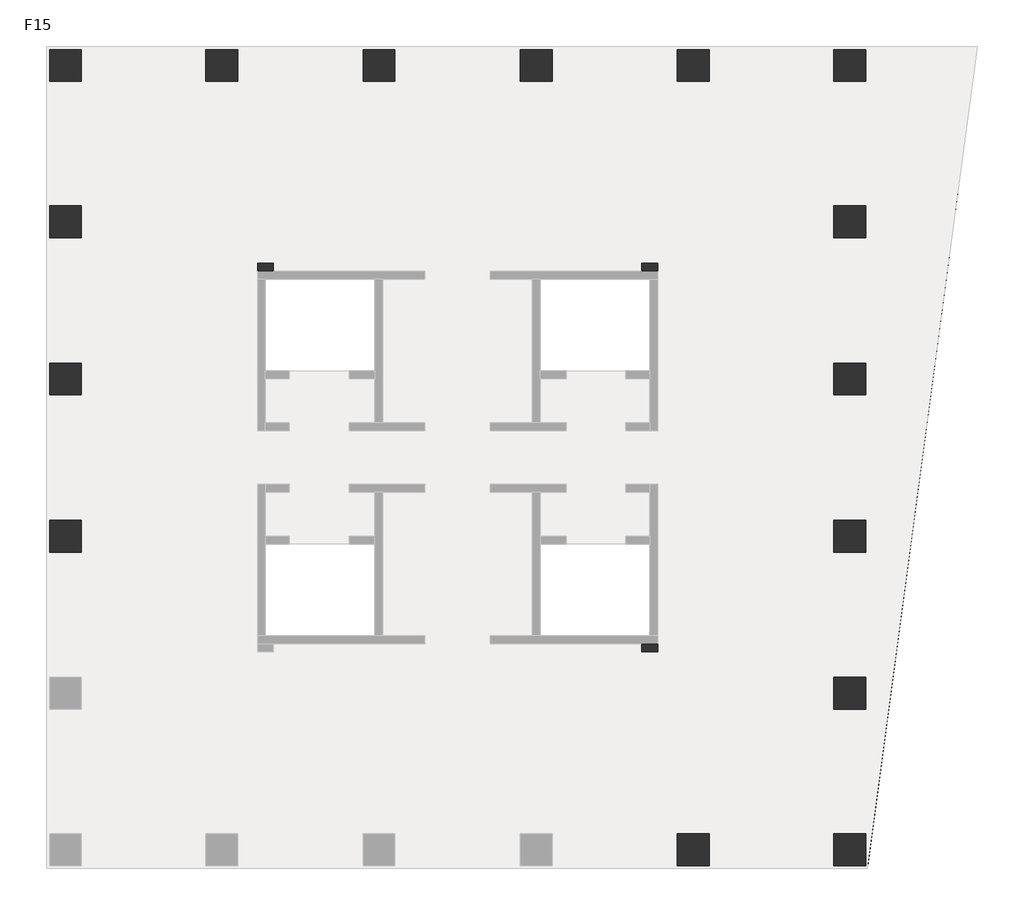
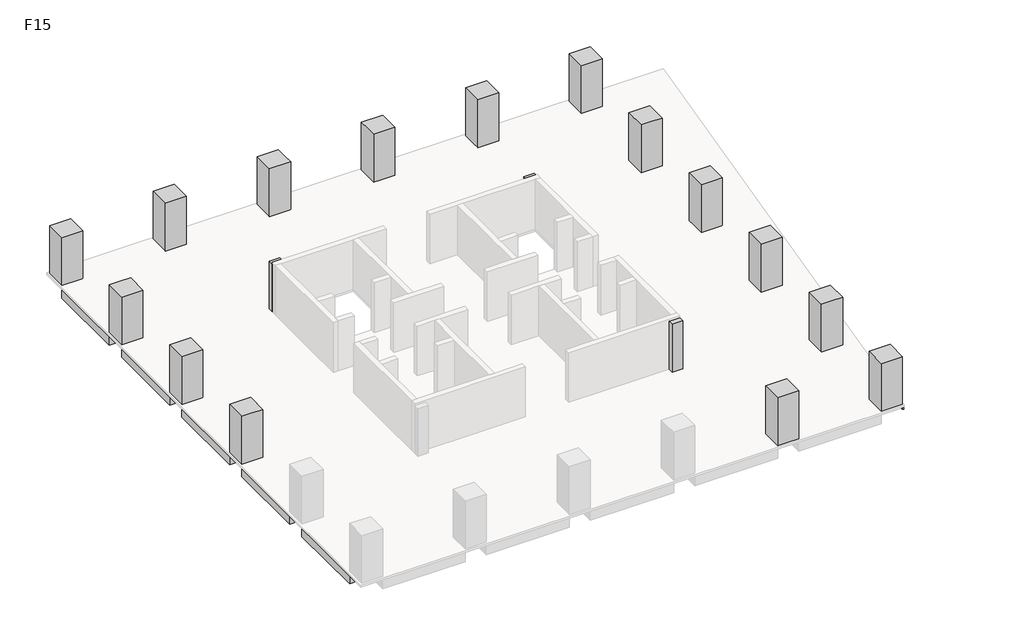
# One storey, part 2 of 2: 21 beams, 18 columns.
"""IFC4 building model written with IfcOpenShell, lengths in millimetres."""

from ifc_helpers import new_model, si_unit, frame, origin, place, context, project, spatial, polyline, outline, extrude, faceted_brep, element, save

model = new_model("IFC4")

# Units and contexts
model_context = context("Model", 3, world=origin())
ifc_project = project(units=[si_unit("LENGTHUNIT", "METRE", prefix="MILLI")], contexts=[model_context])

# Site, building, storey
site = spatial("IfcSite", under=ifc_project)
building = spatial("IfcBuilding", under=site)
storey = spatial("IfcBuildingStorey", under=building, Name="F15", Elevation=60000.0)

# Beams
placement = place(None, origin())
element("IfcBeam", 1, ObjectType="混凝土 - 矩形梁 : KL(5)-800x1000", at=placement, inside=storey, context=model_context, shape_type="SweptSolid", body=[
    extrude(outline(polyline([(25327.3257831, 27051.0498658), (25327.3257831, 26251.0498658), (19077.3257831, 26251.0498658), (19077.3257831, 27051.0498658), (25327.3257831, 27051.0498658)])), frame((0.0, 0.0, 59000.0), z_axis=(0.0, 0.0, 1.0), x_axis=(1.0, 0.0, 0.0)), (0.0, 0.0, 1.0), 840.0),
    extrude(outline(polyline([(-12472.6742169, 26251.0498658), (-12472.6742169, 27051.0498658), (-6222.6742169, 27051.0498658), (-6222.6742169, 26251.0498658), (-12472.6742169, 26251.0498658)])), frame((0.0, 0.0, 59000.0), z_axis=(0.0, 0.0, 1.0), x_axis=(1.0, 0.0, 0.0)), (0.0, 0.0, 1.0), 840.0),
    extrude(outline(polyline([(-4622.6742169, 26251.0498658), (-4622.6742169, 27051.0498658), (1677.3257831, 27051.0498658), (1677.3257831, 26251.0498658), (-4622.6742169, 26251.0498658)])), frame((0.0, 0.0, 59000.0), z_axis=(0.0, 0.0, 1.0), x_axis=(1.0, 0.0, 0.0)), (0.0, 0.0, 1.0), 840.0),
    extrude(outline(polyline([(3277.3257831, 26251.0498658), (3277.3257831, 27051.0498658), (9577.3257831, 27051.0498658), (9577.3257831, 26251.0498658), (3277.3257831, 26251.0498658)])), frame((0.0, 0.0, 59000.0), z_axis=(0.0, 0.0, 1.0), x_axis=(1.0, 0.0, 0.0)), (0.0, 0.0, 1.0), 840.0),
    extrude(outline(polyline([(11177.3257831, 26251.0498658), (11177.3257831, 27051.0498658), (17477.3257831, 27051.0498658), (17477.3257831, 26251.0498658), (11177.3257831, 26251.0498658)])), frame((0.0, 0.0, 59000.0), z_axis=(0.0, 0.0, 1.0), x_axis=(1.0, 0.0, 0.0)), (0.0, 0.0, 1.0), 840.0),
])
element("IfcBeam", 2, ObjectType="混凝土 - 矩形梁 : KL(5)-800x1000", at=placement, inside=storey, context=model_context, shape_type="Brep", body=[
    faceted_brep([(26927.3257831, 26251.0498658, 59000.0), (32422.0087099, 26251.0498658, 59000.0), (32422.0087099, 26251.0498658, 59840.0), (32018.4257091, 26251.0498658, 59840.0), (26927.3257831, 26251.0498658, 59840.0), (32422.0087099, 27051.0498658, 59000.0), (26927.3257831, 27051.0498658, 59000.0), (26927.3257831, 27051.0498658, 59840.0), (32422.0087099, 27051.0498658, 59840.0)], [[[0, 1, 2, 3, 4]], [[5, 1, 0, 6]], [[5, 6, 7, 8]], [[1, 5, 8, 2]], [[6, 0, 4, 7]], [[4, 3, 2, 8, 7]]]),
])
element("IfcBeam", 3, ObjectType="混凝土 - 矩形梁 : KL(5)-800x1000", at=placement, inside=storey, context=model_context, shape_type="Brep", body=[
    faceted_brep([(26127.3257831, -6098.9501342, 59000.0), (26127.3257831, -12348.9501342, 59000.0), (26127.3257831, -12348.9501342, 59840.0), (26127.3257831, -6098.9501342, 59840.0), (26927.3257831, -12348.9501342, 59000.0), (26927.3257831, -6098.9501342, 59000.0), (26927.3257831, -6098.9501342, 59840.0), (26927.3257831, -11700.7859463, 59840.0), (26927.3257831, -12348.9501342, 59840.0)], [[[0, 1, 2, 3]], [[4, 1, 0, 5]], [[4, 5, 6, 7, 8]], [[1, 4, 8, 2]], [[5, 0, 3, 6]], [[3, 2, 8, 7, 6]]]),
    faceted_brep([(26927.3257831, 25451.0498658, 59000.0), (26127.3257831, 25451.0498658, 59000.0), (26127.3257831, 25451.0498658, 59840.0), (26927.3257831, 25451.0498658, 59840.0), (26127.3257831, 19201.0498658, 59000.0), (26927.3257831, 19201.0498658, 59000.0), (26927.3257831, 19201.0498658, 59840.0), (26127.3257831, 19201.0498658, 59840.0)], [[[0, 1, 2, 3]], [[4, 5, 6, 7]], [[1, 4, 7, 2]], [[1, 0, 5, 4]], [[5, 0, 3, 6]], [[3, 2, 7, 6]]]),
    faceted_brep([(26927.3257831, 17601.0498658, 59000.0), (26127.3257831, 17601.0498658, 59000.0), (26127.3257831, 17601.0498658, 59840.0), (26927.3257831, 17601.0498658, 59840.0), (26127.3257831, 11301.0498658, 59000.0), (26927.3257831, 11301.0498658, 59000.0), (26927.3257831, 11301.0498658, 59840.0), (26127.3257831, 11301.0498658, 59840.0)], [[[0, 1, 2, 3]], [[4, 5, 6, 7]], [[1, 4, 7, 2]], [[1, 0, 5, 4]], [[5, 0, 3, 6]], [[3, 2, 7, 6]]]),
    faceted_brep([(26927.3257831, 9701.0498658, 59000.0), (26127.3257831, 9701.0498658, 59000.0), (26127.3257831, 9701.0498658, 59840.0), (26927.3257831, 9701.0498658, 59840.0), (26127.3257831, 3401.0498658, 59000.0), (26927.3257831, 3401.0498658, 59000.0), (26927.3257831, 3401.0498658, 59840.0), (26127.3257831, 3401.0498658, 59840.0)], [[[0, 1, 2, 3]], [[4, 5, 6, 7]], [[1, 4, 7, 2]], [[1, 0, 5, 4]], [[5, 0, 3, 6]], [[3, 2, 7, 6]]]),
    faceted_brep([(26927.3257831, 1801.0498658, 59000.0), (26127.3257831, 1801.0498658, 59000.0), (26127.3257831, 1801.0498658, 59840.0), (26927.3257831, 1801.0498658, 59840.0), (26127.3257831, -4498.9501342, 59000.0), (26927.3257831, -4498.9501342, 59000.0), (26927.3257831, -4498.9501342, 59840.0), (26127.3257831, -4498.9501342, 59840.0)], [[[0, 1, 2, 3]], [[4, 5, 6, 7]], [[1, 4, 7, 2]], [[1, 0, 5, 4]], [[5, 0, 3, 6]], [[3, 2, 7, 6]]]),
])
element("IfcBeam", 4, ObjectType="混凝土 - 矩形梁 : KL(5)-800x1000", at=placement, inside=storey, context=model_context, shape_type="SweptSolid", body=[
    extrude(outline(polyline([(-14072.6742169, 25451.0498658), (-13272.6742169, 25451.0498658), (-13272.6742169, 19201.0498658), (-14072.6742169, 19201.0498658), (-14072.6742169, 25451.0498658)])), frame((0.0, 0.0, 59000.0), z_axis=(0.0, 0.0, 1.0), x_axis=(1.0, 0.0, 0.0)), (0.0, 0.0, 1.0), 840.0),
    extrude(outline(polyline([(-13272.6742169, -12348.9501342), (-14072.6742169, -12348.9501342), (-14072.6742169, -6098.9501342), (-13272.6742169, -6098.9501342), (-13272.6742169, -12348.9501342)])), frame((0.0, 0.0, 59000.0), z_axis=(0.0, 0.0, 1.0), x_axis=(1.0, 0.0, 0.0)), (0.0, 0.0, 1.0), 840.0),
    extrude(outline(polyline([(-14072.6742169, 17601.0498658), (-13272.6742169, 17601.0498658), (-13272.6742169, 11301.0498658), (-14072.6742169, 11301.0498658), (-14072.6742169, 17601.0498658)])), frame((0.0, 0.0, 59000.0), z_axis=(0.0, 0.0, 1.0), x_axis=(1.0, 0.0, 0.0)), (0.0, 0.0, 1.0), 840.0),
    extrude(outline(polyline([(-14072.6742169, 9701.0498658), (-13272.6742169, 9701.0498658), (-13272.6742169, 3401.0498658), (-14072.6742169, 3401.0498658), (-14072.6742169, 9701.0498658)])), frame((0.0, 0.0, 59000.0), z_axis=(0.0, 0.0, 1.0), x_axis=(1.0, 0.0, 0.0)), (0.0, 0.0, 1.0), 840.0),
    extrude(outline(polyline([(-14072.6742169, 1801.0498658), (-13272.6742169, 1801.0498658), (-13272.6742169, -4498.9501342), (-14072.6742169, -4498.9501342), (-14072.6742169, 1801.0498658)])), frame((0.0, 0.0, 59000.0), z_axis=(0.0, 0.0, 1.0), x_axis=(1.0, 0.0, 0.0)), (0.0, 0.0, 1.0), 840.0),
])
element("IfcBeam", 5, ObjectType="混凝土 - 矩形梁 : L1-800x500", at=placement, inside=storey, context=model_context, shape_type="SweptSolid", body=[
    extrude(outline(polyline([(-12472.6742169, 2201.0498658), (-12472.6742169, 3001.0498658), (-3622.6742169, 3001.0498658), (-3622.6742169, 2201.0498658), (-12472.6742169, 2201.0498658)])), frame((0.0, 0.0, 59500.0), z_axis=(0.0, 0.0, 1.0), x_axis=(1.0, 0.0, 0.0)), (0.0, 0.0, 1.0), 340.0),
])
element("IfcBeam", 6, ObjectType="混凝土 - 矩形梁 : L1-800x500", at=placement, inside=storey, context=model_context, shape_type="SweptSolid", body=[
    extrude(outline(polyline([(-12472.6742169, 10101.0498658), (-12472.6742169, 10901.0498658), (-3622.6742169, 10901.0498658), (-3622.6742169, 10101.0498658), (-12472.6742169, 10101.0498658)])), frame((0.0, 0.0, 59500.0), z_axis=(0.0, 0.0, 1.0), x_axis=(1.0, 0.0, 0.0)), (0.0, 0.0, 1.0), 340.0),
])
element("IfcBeam", 7, ObjectType="混凝土 - 矩形梁 : L1-800x500", at=placement, inside=storey, context=model_context, shape_type="Brep", body=[
    faceted_brep([(-12472.6742169, 17789.85471, 59500.0), (-3622.6742169, 15588.3621727, 59500.0), (-3622.6742169, 15588.3621727, 59840.0), (-12472.6742169, 17789.85471, 59840.0), (-3173.6696907, 16301.0498658, 59500.0), (-3622.6742169, 16301.0498658, 59500.0), (-3622.6742169, 15901.0498658, 59500.0), (-12472.6742169, 18614.2350714, 59500.0), (-3746.9473979, 16443.6562607, 59500.0), (-12472.6742169, 18614.2350714, 59840.0), (-3746.9473979, 16443.6562607, 59840.0), (-3173.6696907, 16301.0498658, 59840.0), (-3622.6742169, 16301.0498658, 59840.0)], [[[0, 1, 2, 3]], [[4, 5, 6, 1, 0, 7, 8]], [[4, 8, 7, 9, 10, 11]], [[6, 5, 12, 2, 1]], [[5, 4, 11, 12]], [[7, 0, 3, 9]], [[3, 2, 12, 11, 10, 9]]]),
])
element("IfcBeam", 8, ObjectType="混凝土 - 矩形梁 : L1-800x500", at=placement, inside=storey, context=model_context, shape_type="SweptSolid", body=[
    extrude(outline(polyline([(-3173.6696907, 16301.0498658), (-3746.9473979, 16443.6562607), (-5661.5624638, 25451.0498658), (-4843.6893517, 25451.0498658), (-2898.7618154, 16301.0498658), (-3173.6696907, 16301.0498658)])), frame((0.0, 0.0, 59500.0), z_axis=(0.0, 0.0, 1.0), x_axis=(1.0, 0.0, 0.0)), (0.0, 0.0, 1.0), 340.0),
])
element("IfcBeam", 9, ObjectType="混凝土 - 矩形梁 : L1-800x500", at=placement, inside=storey, context=model_context, shape_type="SweptSolid", body=[
    extrude(outline(polyline([(2077.3257831, 25451.0498658), (2877.3257831, 25451.0498658), (2877.3257831, 15901.0498658), (2077.3257831, 15901.0498658), (2077.3257831, 25451.0498658)])), frame((0.0, 0.0, 59500.0), z_axis=(0.0, 0.0, 1.0), x_axis=(1.0, 0.0, 0.0)), (0.0, 0.0, 1.0), 340.0),
])
element("IfcBeam", 10, ObjectType="混凝土 - 矩形梁 : L1-800x500", at=placement, inside=storey, context=model_context, shape_type="SweptSolid", body=[
    extrude(outline(polyline([(9977.3257831, 25451.0498658), (10777.3257831, 25451.0498658), (10777.3257831, 15901.0498658), (9977.3257831, 15901.0498658), (9977.3257831, 25451.0498658)])), frame((0.0, 0.0, 59500.0), z_axis=(0.0, 0.0, 1.0), x_axis=(1.0, 0.0, 0.0)), (0.0, 0.0, 1.0), 340.0),
])
element("IfcBeam", 11, ObjectType="混凝土 - 矩形梁 : L1-800x500", at=placement, inside=storey, context=model_context, shape_type="Brep", body=[
    faceted_brep([(25327.3257831, -4687.7549784, 59500.0), (16477.3257831, -2486.2624411, 59500.0), (16477.3257831, -2486.2624411, 59840.0), (25327.3257831, -4687.7549784, 59840.0), (16028.3212569, -3198.9501342, 59500.0), (16477.3257831, -3198.9501342, 59500.0), (16477.3257831, -2798.9501342, 59500.0), (25327.3257831, -5512.1353397, 59500.0), (16601.5989641, -3341.556529, 59500.0), (25327.3257831, -5512.1353397, 59840.0), (16601.5989641, -3341.556529, 59840.0), (16028.3212569, -3198.9501342, 59840.0), (16477.3257831, -3198.9501342, 59840.0)], [[[0, 1, 2, 3]], [[4, 5, 6, 1, 0, 7, 8]], [[4, 8, 7, 9, 10, 11]], [[6, 5, 12, 2, 1]], [[5, 4, 11, 12]], [[7, 0, 3, 9]], [[3, 2, 12, 11, 10, 9]]]),
])
element("IfcBeam", 12, ObjectType="混凝土 - 矩形梁 : L1-800x500", at=placement, inside=storey, context=model_context, shape_type="SweptSolid", body=[
    extrude(outline(polyline([(16028.3212569, -3198.9501342), (16601.5989641, -3341.556529), (18516.21403, -12348.9501342), (17698.3409179, -12348.9501342), (15753.4133817, -3198.9501342), (16028.3212569, -3198.9501342)])), frame((0.0, 0.0, 59500.0), z_axis=(0.0, 0.0, 1.0), x_axis=(1.0, 0.0, 0.0)), (0.0, 0.0, 1.0), 340.0),
])
element("IfcBeam", 13, ObjectType="混凝土 - 矩形梁 : L1-800x500", at=placement, inside=storey, context=model_context, shape_type="SweptSolid", body=[
    extrude(outline(polyline([(25327.3257831, 3001.0498658), (25327.3257831, 2201.0498658), (16477.3257831, 2201.0498658), (16477.3257831, 3001.0498658), (25327.3257831, 3001.0498658)])), frame((0.0, 0.0, 59500.0), z_axis=(0.0, 0.0, 1.0), x_axis=(1.0, 0.0, 0.0)), (0.0, 0.0, 1.0), 340.0),
])
element("IfcBeam", 14, ObjectType="混凝土 - 矩形梁 : L1-800x500", at=placement, inside=storey, context=model_context, shape_type="SweptSolid", body=[
    extrude(outline(polyline([(25327.3257831, 10901.0498658), (25327.3257831, 10101.0498658), (16477.3257831, 10101.0498658), (16477.3257831, 10901.0498658), (25327.3257831, 10901.0498658)])), frame((0.0, 0.0, 59500.0), z_axis=(0.0, 0.0, 1.0), x_axis=(1.0, 0.0, 0.0)), (0.0, 0.0, 1.0), 340.0),
])
element("IfcBeam", 15, ObjectType="混凝土 - 矩形梁 : L1-800x500", at=placement, inside=storey, context=model_context, shape_type="Brep", body=[
    faceted_brep([(25327.3257831, 18610.6867312, 59500.0), (16590.8993897, 16393.3196262, 59500.0), (16227.3565337, 16301.0498658, 59500.0), (16227.3565337, 16301.0498658, 59840.0), (16590.8993897, 16393.3196262, 59840.0), (25327.3257831, 18610.6867312, 59840.0), (16477.3257831, 16301.0498658, 59500.0), (25327.3257831, 17785.3216299, 59500.0), (16477.3257831, 15539.1287365, 59500.0), (16477.3257831, 15901.0498658, 59500.0), (25327.3257831, 17785.3216299, 59840.0), (16477.3257831, 15539.1287365, 59840.0), (16477.3257831, 16301.0498658, 59840.0)], [[[0, 1, 2, 3, 4, 5]], [[6, 2, 1, 0, 7, 8, 9]], [[8, 7, 10, 11]], [[9, 8, 11, 12, 6]], [[2, 6, 12, 3]], [[7, 0, 5, 10]], [[5, 4, 3, 12, 11, 10]]]),
])
element("IfcBeam", 16, ObjectType="混凝土 - 矩形梁 : L1-800x500", at=placement, inside=storey, context=model_context, shape_type="SweptSolid", body=[
    extrude(outline(polyline([(16590.8993897, 16393.3196262), (16227.3565337, 16301.0498658), (15753.4133817, 16301.0498658), (17698.3409179, 25451.0498658), (18516.21403, 25451.0498658), (16590.8993897, 16393.3196262)])), frame((0.0, 0.0, 59500.0), z_axis=(0.0, 0.0, 1.0), x_axis=(1.0, 0.0, 0.0)), (0.0, 0.0, 1.0), 340.0),
])
element("IfcBeam", 17, ObjectType="混凝土 - 矩形梁 : L2-400x400", at=placement, inside=storey, context=model_context, shape_type="Brep", body=[
    faceted_brep([(32422.0087099, 26251.0498658, 59600.0), (27029.3257831, -13948.9501342, 59600.0), (26927.3257831, -13935.2672073, 59600.0), (26927.3257831, -11700.7859463, 59600.0), (27759.2793677, -5498.9501342, 59600.0), (27812.9379042, -5098.9501342, 59600.0), (28819.0354652, 2401.0498658, 59600.0), (28872.6940018, 2801.0498658, 59600.0), (29878.7915628, 10301.0498658, 59600.0), (29932.4500994, 10701.0498658, 59600.0), (30938.5476603, 18201.0498658, 59600.0), (30992.2061969, 18601.0498658, 59600.0), (32018.4257091, 26251.0498658, 59600.0), (32422.0087099, 26251.0498658, 59840.0), (27029.3257831, -13948.9501342, 59840.0), (32018.4257091, 26251.0498658, 59840.0), (26927.3257831, -13935.2672073, 59840.0), (26927.3257831, -12348.9501342, 59840.0), (26927.3257831, -11700.7859463, 59840.0), (27759.2793677, -5498.9501342, 59840.0), (27812.9379042, -5098.9501342, 59840.0), (28819.0354652, 2401.0498658, 59840.0), (28872.6940018, 2801.0498658, 59840.0), (29878.7915628, 10301.0498658, 59840.0), (29932.4500994, 10701.0498658, 59840.0), (30938.5476603, 18201.0498658, 59840.0), (30992.2061969, 18601.0498658, 59840.0)], [[[0, 1, 2, 3, 4, 5, 6, 7, 8, 9, 10, 11, 12]], [[1, 0, 13, 14]], [[0, 12, 15, 13]], [[3, 2, 16, 17, 18]], [[12, 11, 10, 9, 8, 7, 6, 5, 4, 3, 18, 19, 20, 21, 22, 23, 24, 25, 26, 15]], [[2, 1, 14, 16]], [[14, 13, 15, 26, 25, 24, 23, 22, 21, 20, 19, 18, 17, 16]]]),
])
element("IfcBeam", 18, ObjectType="混凝土 - 矩形梁 : L2-400x400", at=placement, inside=storey, context=model_context, shape_type="SweptSolid", body=[
    extrude(outline(polyline([(30938.5476603, 18201.0498658), (26927.3257831, 18201.0498658), (26927.3257831, 18601.0498658), (30992.2061969, 18601.0498658), (30938.5476603, 18201.0498658)])), frame((0.0, 0.0, 59600.0), z_axis=(0.0, 0.0, 1.0), x_axis=(1.0, 0.0, 0.0)), (0.0, 0.0, 1.0), 240.0),
])
element("IfcBeam", 19, ObjectType="混凝土 - 矩形梁 : L2-400x400", at=placement, inside=storey, context=model_context, shape_type="SweptSolid", body=[
    extrude(outline(polyline([(29878.7915628, 10301.0498658), (26927.3257831, 10301.0498658), (26927.3257831, 10701.0498658), (29932.4500994, 10701.0498658), (29878.7915628, 10301.0498658)])), frame((0.0, 0.0, 59600.0), z_axis=(0.0, 0.0, 1.0), x_axis=(1.0, 0.0, 0.0)), (0.0, 0.0, 1.0), 240.0),
])
element("IfcBeam", 20, ObjectType="混凝土 - 矩形梁 : L2-400x400", at=placement, inside=storey, context=model_context, shape_type="SweptSolid", body=[
    extrude(outline(polyline([(28819.0354652, 2401.0498658), (26927.3257831, 2401.0498658), (26927.3257831, 2801.0498658), (28872.6940018, 2801.0498658), (28819.0354652, 2401.0498658)])), frame((0.0, 0.0, 59600.0), z_axis=(0.0, 0.0, 1.0), x_axis=(1.0, 0.0, 0.0)), (0.0, 0.0, 1.0), 240.0),
])
element("IfcBeam", 21, ObjectType="混凝土 - 矩形梁 : L2-400x400", at=placement, inside=storey, context=model_context, shape_type="SweptSolid", body=[
    extrude(outline(polyline([(27759.2793677, -5498.9501342), (26927.3257831, -5498.9501342), (26927.3257831, -5098.9501342), (27812.9379042, -5098.9501342), (27759.2793677, -5498.9501342)])), frame((0.0, 0.0, 59600.0), z_axis=(0.0, 0.0, 1.0), x_axis=(1.0, 0.0, 0.0)), (0.0, 0.0, 1.0), 240.0),
])

# Columns
element("IfcColumn", 22, ObjectType="混凝土 - 矩形 - 柱 : Z1-1600x1600", at=placement, inside=storey, context=model_context, shape_type="SweptSolid", body=[
    extrude(outline(polyline([(-12472.6742169, 27051.0498658), (-12472.6742169, 25451.0498658), (-14072.6742169, 25451.0498658), (-14072.6742169, 27051.0498658), (-12472.6742169, 27051.0498658)])), frame((0.0, 0.0, 60000.0), z_axis=(0.0, 0.0, 1.0), x_axis=(1.0, 0.0, 0.0)), (0.0, 0.0, 1.0), 3840.0),
])
element("IfcColumn", 23, ObjectType="混凝土 - 矩形 - 柱 : Z1-1600x1600", at=placement, inside=storey, context=model_context, shape_type="Brep", body=[
    faceted_brep([(-4622.6742169, 27051.0498658, 60000.0), (-4622.6742169, 25451.0498658, 60000.0), (-6222.6742169, 25451.0498658, 60000.0), (-6222.6742169, 27051.0498658, 60000.0), (-4622.6742169, 27051.0498658, 63000.0), (-4622.6742169, 27051.0498658, 63840.0), (-4622.6742169, 26251.0498658, 63840.0), (-4622.6742169, 25451.0498658, 63840.0), (-6222.6742169, 25451.0498658, 63840.0), (-6222.6742169, 26251.0498658, 63840.0), (-6222.6742169, 27051.0498658, 63840.0), (-6222.6742169, 27051.0498658, 63000.0)], [[[0, 1, 2, 3]], [[1, 0, 4, 5, 6, 7]], [[2, 1, 7, 8]], [[3, 2, 8, 9, 10, 11]], [[0, 3, 11, 10, 5, 4]], [[7, 6, 5, 10, 9, 8]]]),
])
element("IfcColumn", 24, ObjectType="混凝土 - 矩形 - 柱 : Z1-1600x1600", at=placement, inside=storey, context=model_context, shape_type="Brep", body=[
    faceted_brep([(-12472.6742169, 19201.0498658, 60000.0), (-12472.6742169, 17601.0498658, 60000.0), (-14072.6742169, 17601.0498658, 60000.0), (-14072.6742169, 19201.0498658, 60000.0), (-12472.6742169, 19201.0498658, 63840.0), (-12472.6742169, 17601.0498658, 63840.0), (-13272.6742169, 17601.0498658, 63840.0), (-14072.6742169, 17601.0498658, 63840.0), (-14072.6742169, 17601.0498658, 63000.0), (-14072.6742169, 19201.0498658, 63840.0), (-14072.6742169, 19201.0498658, 63000.0), (-13272.6742169, 19201.0498658, 63840.0)], [[[0, 1, 2, 3]], [[1, 0, 4, 5]], [[2, 1, 5, 6, 7, 8]], [[3, 2, 8, 7, 9, 10]], [[0, 3, 10, 9, 11, 4]], [[5, 4, 11, 9, 7, 6]]]),
])
element("IfcColumn", 25, ObjectType="混凝土 - 矩形 - 柱 : Z1-1600x1600", at=placement, inside=storey, context=model_context, shape_type="Brep", body=[
    faceted_brep([(-12472.6742169, 11301.0498658, 60000.0), (-12472.6742169, 9701.0498658, 60000.0), (-14072.6742169, 9701.0498658, 60000.0), (-14072.6742169, 11301.0498658, 60000.0), (-12472.6742169, 11301.0498658, 63840.0), (-12472.6742169, 9701.0498658, 63840.0), (-13272.6742169, 9701.0498658, 63840.0), (-14072.6742169, 9701.0498658, 63840.0), (-14072.6742169, 9701.0498658, 63000.0), (-14072.6742169, 11301.0498658, 63840.0), (-14072.6742169, 11301.0498658, 63000.0), (-13272.6742169, 11301.0498658, 63840.0)], [[[0, 1, 2, 3]], [[1, 0, 4, 5]], [[2, 1, 5, 6, 7, 8]], [[3, 2, 8, 7, 9, 10]], [[0, 3, 10, 9, 11, 4]], [[5, 4, 11, 9, 7, 6]]]),
])
element("IfcColumn", 26, ObjectType="混凝土 - 矩形 - 柱 : Z1-1600x1600", at=placement, inside=storey, context=model_context, shape_type="Brep", body=[
    faceted_brep([(-12472.6742169, 3401.0498658, 60000.0), (-12472.6742169, 1801.0498658, 60000.0), (-14072.6742169, 1801.0498658, 60000.0), (-14072.6742169, 3401.0498658, 60000.0), (-12472.6742169, 3401.0498658, 63840.0), (-12472.6742169, 1801.0498658, 63840.0), (-13272.6742169, 1801.0498658, 63840.0), (-14072.6742169, 1801.0498658, 63840.0), (-14072.6742169, 1801.0498658, 63000.0), (-14072.6742169, 3401.0498658, 63840.0), (-14072.6742169, 3401.0498658, 63000.0), (-13272.6742169, 3401.0498658, 63840.0)], [[[0, 1, 2, 3]], [[1, 0, 4, 5]], [[2, 1, 5, 6, 7, 8]], [[3, 2, 8, 7, 9, 10]], [[0, 3, 10, 9, 11, 4]], [[5, 4, 11, 9, 7, 6]]]),
])
element("IfcColumn", 27, ObjectType="混凝土 - 矩形 - 柱 : Z1-1600x1600", at=placement, inside=storey, context=model_context, shape_type="SweptSolid", body=[
    extrude(outline(polyline([(25327.3257831, 27051.0498658), (26927.3257831, 27051.0498658), (26927.3257831, 25451.0498658), (25327.3257831, 25451.0498658), (25327.3257831, 27051.0498658)])), frame((0.0, 0.0, 60000.0), z_axis=(0.0, 0.0, 1.0), x_axis=(1.0, 0.0, 0.0)), (0.0, 0.0, 1.0), 3840.0),
])
element("IfcColumn", 28, ObjectType="混凝土 - 矩形 - 柱 : Z1-1600x1600", at=placement, inside=storey, context=model_context, shape_type="Brep", body=[
    faceted_brep([(25327.3257831, 19201.0498658, 60000.0), (26927.3257831, 19201.0498658, 60000.0), (26927.3257831, 17601.0498658, 60000.0), (25327.3257831, 17601.0498658, 60000.0), (25327.3257831, 17601.0498658, 63840.0), (25327.3257831, 19201.0498658, 63840.0), (26927.3257831, 17601.0498658, 63000.0), (26927.3257831, 17601.0498658, 63840.0), (26127.3257831, 17601.0498658, 63840.0), (26927.3257831, 19201.0498658, 63000.0), (26927.3257831, 19201.0498658, 63840.0), (26127.3257831, 19201.0498658, 63840.0)], [[[0, 1, 2, 3]], [[0, 3, 4, 5]], [[3, 2, 6, 7, 8, 4]], [[2, 1, 9, 10, 7, 6]], [[1, 0, 5, 11, 10, 9]], [[5, 4, 8, 7, 10, 11]]]),
])
element("IfcColumn", 29, ObjectType="混凝土 - 矩形 - 柱 : Z1-1600x1600", at=placement, inside=storey, context=model_context, shape_type="Brep", body=[
    faceted_brep([(25327.3257831, 11301.0498658, 60000.0), (26927.3257831, 11301.0498658, 60000.0), (26927.3257831, 9701.0498658, 60000.0), (25327.3257831, 9701.0498658, 60000.0), (25327.3257831, 9701.0498658, 63840.0), (25327.3257831, 11301.0498658, 63840.0), (26927.3257831, 9701.0498658, 63000.0), (26927.3257831, 9701.0498658, 63840.0), (26127.3257831, 9701.0498658, 63840.0), (26927.3257831, 11301.0498658, 63000.0), (26927.3257831, 11301.0498658, 63840.0), (26127.3257831, 11301.0498658, 63840.0)], [[[0, 1, 2, 3]], [[0, 3, 4, 5]], [[3, 2, 6, 7, 8, 4]], [[2, 1, 9, 10, 7, 6]], [[1, 0, 5, 11, 10, 9]], [[5, 4, 8, 7, 10, 11]]]),
])
element("IfcColumn", 30, ObjectType="混凝土 - 矩形 - 柱 : Z1-1600x1600", at=placement, inside=storey, context=model_context, shape_type="Brep", body=[
    faceted_brep([(25327.3257831, 3401.0498658, 60000.0), (26927.3257831, 3401.0498658, 60000.0), (26927.3257831, 1801.0498658, 60000.0), (25327.3257831, 1801.0498658, 60000.0), (25327.3257831, 1801.0498658, 63840.0), (25327.3257831, 3401.0498658, 63840.0), (26927.3257831, 1801.0498658, 63000.0), (26927.3257831, 1801.0498658, 63840.0), (26127.3257831, 1801.0498658, 63840.0), (26927.3257831, 3401.0498658, 63000.0), (26927.3257831, 3401.0498658, 63840.0), (26127.3257831, 3401.0498658, 63840.0)], [[[0, 1, 2, 3]], [[0, 3, 4, 5]], [[3, 2, 6, 7, 8, 4]], [[2, 1, 9, 10, 7, 6]], [[1, 0, 5, 11, 10, 9]], [[5, 4, 8, 7, 10, 11]]]),
])
element("IfcColumn", 31, ObjectType="混凝土 - 矩形 - 柱 : Z1-1600x1600", at=placement, inside=storey, context=model_context, shape_type="Brep", body=[
    faceted_brep([(25327.3257831, -4498.9501342, 60000.0), (26927.3257831, -4498.9501342, 60000.0), (26927.3257831, -6098.9501342, 60000.0), (25327.3257831, -6098.9501342, 60000.0), (25327.3257831, -6098.9501342, 63840.0), (25327.3257831, -4498.9501342, 63840.0), (26927.3257831, -6098.9501342, 63000.0), (26927.3257831, -6098.9501342, 63840.0), (26127.3257831, -6098.9501342, 63840.0), (26927.3257831, -4498.9501342, 63000.0), (26927.3257831, -4498.9501342, 63840.0), (26127.3257831, -4498.9501342, 63840.0)], [[[0, 1, 2, 3]], [[0, 3, 4, 5]], [[3, 2, 6, 7, 8, 4]], [[2, 1, 9, 10, 7, 6]], [[1, 0, 5, 11, 10, 9]], [[5, 4, 8, 7, 10, 11]]]),
])
element("IfcColumn", 32, ObjectType="混凝土 - 矩形 - 柱 : Z1-1600x1600", at=placement, inside=storey, context=model_context, shape_type="SweptSolid", body=[
    extrude(outline(polyline([(25327.3257831, -12348.9501342), (26927.3257831, -12348.9501342), (26927.3257831, -13948.9501342), (25327.3257831, -13948.9501342), (25327.3257831, -12348.9501342)])), frame((0.0, 0.0, 60000.0), z_axis=(0.0, 0.0, 1.0), x_axis=(1.0, 0.0, 0.0)), (0.0, 0.0, 1.0), 3840.0),
])
element("IfcColumn", 33, ObjectType="混凝土 - 矩形 - 柱 : Z1-1600x1600", at=placement, inside=storey, context=model_context, shape_type="Brep", body=[
    faceted_brep([(3277.3257831, 27051.0498658, 60000.0), (3277.3257831, 25451.0498658, 60000.0), (1677.3257831, 25451.0498658, 60000.0), (1677.3257831, 27051.0498658, 60000.0), (3277.3257831, 27051.0498658, 63000.0), (3277.3257831, 27051.0498658, 63840.0), (3277.3257831, 26251.0498658, 63840.0), (3277.3257831, 25451.0498658, 63840.0), (1677.3257831, 25451.0498658, 63840.0), (1677.3257831, 26251.0498658, 63840.0), (1677.3257831, 27051.0498658, 63840.0), (1677.3257831, 27051.0498658, 63000.0)], [[[0, 1, 2, 3]], [[1, 0, 4, 5, 6, 7]], [[2, 1, 7, 8]], [[3, 2, 8, 9, 10, 11]], [[0, 3, 11, 10, 5, 4]], [[7, 6, 5, 10, 9, 8]]]),
])
element("IfcColumn", 34, ObjectType="混凝土 - 矩形 - 柱 : Z1-1600x1600", at=placement, inside=storey, context=model_context, shape_type="Brep", body=[
    faceted_brep([(11177.3257831, 27051.0498658, 60000.0), (11177.3257831, 25451.0498658, 60000.0), (9577.3257831, 25451.0498658, 60000.0), (9577.3257831, 27051.0498658, 60000.0), (11177.3257831, 27051.0498658, 63000.0), (11177.3257831, 27051.0498658, 63840.0), (11177.3257831, 26251.0498658, 63840.0), (11177.3257831, 25451.0498658, 63840.0), (9577.3257831, 25451.0498658, 63840.0), (9577.3257831, 26251.0498658, 63840.0), (9577.3257831, 27051.0498658, 63840.0), (9577.3257831, 27051.0498658, 63000.0)], [[[0, 1, 2, 3]], [[1, 0, 4, 5, 6, 7]], [[2, 1, 7, 8]], [[3, 2, 8, 9, 10, 11]], [[0, 3, 11, 10, 5, 4]], [[7, 6, 5, 10, 9, 8]]]),
])
element("IfcColumn", 35, ObjectType="混凝土 - 矩形 - 柱 : Z1-1600x1600", at=placement, inside=storey, context=model_context, shape_type="Brep", body=[
    faceted_brep([(19077.3257831, 27051.0498658, 60000.0), (19077.3257831, 25451.0498658, 60000.0), (17477.3257831, 25451.0498658, 60000.0), (17477.3257831, 27051.0498658, 60000.0), (19077.3257831, 27051.0498658, 63000.0), (19077.3257831, 27051.0498658, 63840.0), (19077.3257831, 26251.0498658, 63840.0), (19077.3257831, 25451.0498658, 63840.0), (17477.3257831, 25451.0498658, 63840.0), (17477.3257831, 26251.0498658, 63840.0), (17477.3257831, 27051.0498658, 63840.0), (17477.3257831, 27051.0498658, 63000.0)], [[[0, 1, 2, 3]], [[1, 0, 4, 5, 6, 7]], [[2, 1, 7, 8]], [[3, 2, 8, 9, 10, 11]], [[0, 3, 11, 10, 5, 4]], [[7, 6, 5, 10, 9, 8]]]),
])
element("IfcColumn", 36, ObjectType="混凝土 - 矩形 - 柱 : Z1-1600x1600", at=placement, inside=storey, context=model_context, shape_type="Brep", body=[
    faceted_brep([(19077.3257831, -12348.9501342, 60000.0), (19077.3257831, -13948.9501342, 60000.0), (17477.3257831, -13948.9501342, 60000.0), (17477.3257831, -12348.9501342, 60000.0), (19077.3257831, -12348.9501342, 63840.0), (19077.3257831, -13148.9501342, 63840.0), (19077.3257831, -13948.9501342, 63840.0), (19077.3257831, -13948.9501342, 63000.0), (17477.3257831, -13948.9501342, 63840.0), (17477.3257831, -13948.9501342, 63000.0), (17477.3257831, -13148.9501342, 63840.0), (17477.3257831, -12348.9501342, 63840.0)], [[[0, 1, 2, 3]], [[1, 0, 4, 5, 6, 7]], [[2, 1, 7, 6, 8, 9]], [[3, 2, 9, 8, 10, 11]], [[0, 3, 11, 4]], [[6, 5, 4, 11, 10, 8]]]),
])
element("IfcColumn", 37, ObjectType="混凝土 - 矩形 - 柱 : Z2-800x800", at=placement, inside=storey, context=model_context, shape_type="SweptSolid", body=[
    extrude(outline(polyline([(-3622.6742169, 16301.0498658), (-2822.6742169, 16301.0498658), (-2822.6742169, 15901.0498658), (-3622.6742169, 15901.0498658), (-3622.6742169, 16301.0498658)])), frame((0.0, 0.0, 60000.0), z_axis=(0.0, 0.0, 1.0), x_axis=(1.0, 0.0, 0.0)), (0.0, 0.0, 1.0), 3840.0),
])
element("IfcColumn", 38, ObjectType="混凝土 - 矩形 - 柱 : Z2-800x800", at=placement, inside=storey, context=model_context, shape_type="SweptSolid", body=[
    extrude(outline(polyline([(16477.3257831, -3198.9501342), (15677.3257831, -3198.9501342), (15677.3257831, -2798.9501342), (16477.3257831, -2798.9501342), (16477.3257831, -3198.9501342)])), frame((0.0, 0.0, 60000.0), z_axis=(0.0, 0.0, 1.0), x_axis=(1.0, 0.0, 0.0)), (0.0, 0.0, 1.0), 3840.0),
])
element("IfcColumn", 39, ObjectType="混凝土 - 矩形 - 柱 : Z2-800x800", at=placement, inside=storey, context=model_context, shape_type="SweptSolid", body=[
    extrude(outline(polyline([(15677.3257831, 16301.0498658), (16477.3257831, 16301.0498658), (16477.3257831, 15901.0498658), (15677.3257831, 15901.0498658), (15677.3257831, 16301.0498658)])), frame((0.0, 0.0, 60000.0), z_axis=(0.0, 0.0, 1.0), x_axis=(1.0, 0.0, 0.0)), (0.0, 0.0, 1.0), 3840.0),
])

save(model, "model.ifc")
